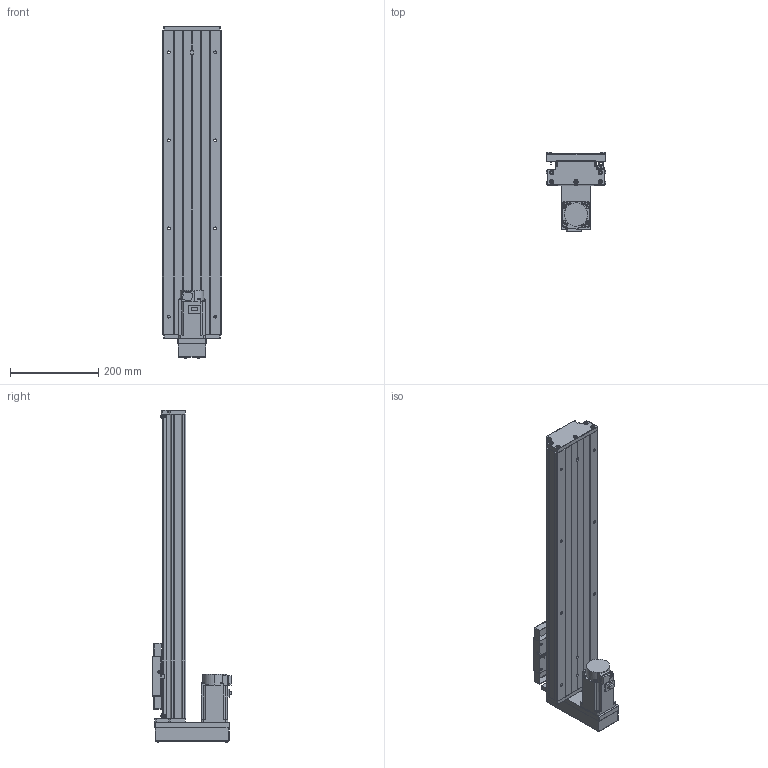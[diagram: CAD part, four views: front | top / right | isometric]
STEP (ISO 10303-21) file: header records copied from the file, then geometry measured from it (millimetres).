
FILE_DESCRIPTION (( 'STEP AP203' ), '1' );
FILE_NAME ('CTH130-500-BM-M40-C4.step', '2023-06-30T02:45:13', ( '微软用户' ), ( '微软中国' ), 'SwSTEP 2.0', 'SolidWorks 2020', '' );
FILE_SCHEMA (( 'CONFIG_CONTROL_DESIGN' ));
Length unit declared in the file: millimetre
Products named in the file (20): GTH14-005; GBT77-2000 M3×3; GTH14-033; GB1155-6X6; CTH130-031; CTH130-500-BM-M40-C4; GBT70.1 M5℅16; GBT 70.2-M3¡Á5_M3¡Á6; GTH14-001_500; CTHA60-017; す晦芛蹟隊 M3℅5; CTH130-002_GTH14-002; EE_SX911P_R; HG-KN43J-S100; GB T308.1-2013-6.35; CTHA60-016; GBT 70.2-M4¡Á35_M4¡Á35; GTH14-004; GBT 70.1-M3℅5; GTH14-015-2_CTHA86-015-2
Assembly tree (60 placements, depth 2):
  CTH130-500-BM-M40-C4
    GTH14-001_500
    CTH130-002_GTH14-002
    GB T308.1-2013-6.35  x2
    GTH14-004
    GTH14-005
    GB1155-6X6  x2
    GBT70.1 M5℅16  x10
    CTHA60-017  x3
    EE_SX911P_R  x3
    CTHA60-016  x2
    GBT 70.1-M3℅5  x6
    GBT77-2000 M3×3  x6
    CTH130-031
    GBT 70.2-M3¡Á5_M3¡Á6  x8
    す晦芛蹟隊 M3℅5  x6
    HG-KN43J-S100
    GBT 70.2-M4¡Á35_M4¡Á35  x4
    GTH14-015-2_CTHA86-015-2
    GTH14-033
Bounding box: 135 x 179.8 x 754.2 mm (x, y, z)
Volume: 4150465.1 mm3; surface area: 725480 mm2
Topology: 63 solids, 63 shells, 2425 faces, 5773 edges, 3569 vertices
Faces by surface type: plane 1308, cylinder 638, cone 299, torus 124, sphere 36, bspline 20
Entity records: 43616 total; most frequent: CARTESIAN_POINT 9797, DIRECTION 6342, ORIENTED_EDGE 6252, EDGE_CURVE 3126, AXIS2_PLACEMENT_3D 2158, VECTOR 2026, LINE 2026, VERTEX_POINT 1979
